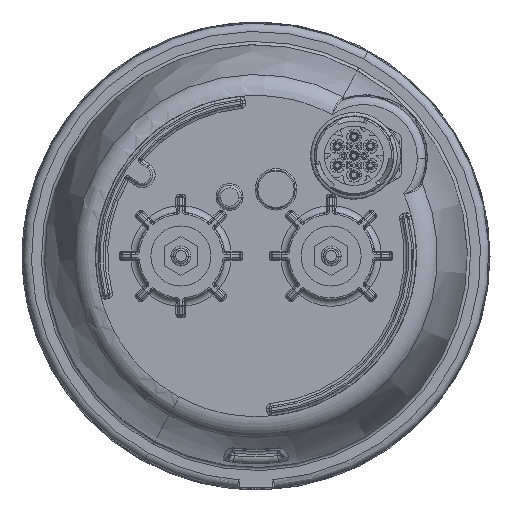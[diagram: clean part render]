
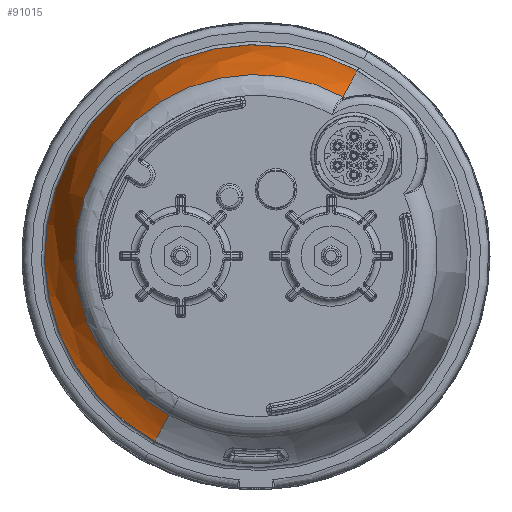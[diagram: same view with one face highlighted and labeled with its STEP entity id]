
A CAD part, left-side view. The second image highlights one B-rep face of the part: STEP entity #91015.
In plain terms, the highlighted face is a revolution surface.
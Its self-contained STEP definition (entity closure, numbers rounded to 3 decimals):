
#81153=AXIS2_PLACEMENT_3D('Circle Axis2P3D',#81151,#81152,$) ;
#90990=AXIS2_PLACEMENT_3D('Circle Axis2P3D',#90988,#90989,$) ;
#81148=CARTESIAN_POINT('Vertex',(40.931,30.343,-55.542)) ;
#81151=CARTESIAN_POINT('Axis2P3D Location',(40.931,0.,0.)) ;
#81155=CARTESIAN_POINT('Vertex',(40.931,-30.343,55.542)) ;
#90963=CARTESIAN_POINT('Vertex',(3.967,-26.074,47.727)) ;
#90979=CARTESIAN_POINT('Control Point',(40.931,0.,63.29)) ;
#90980=CARTESIAN_POINT('Control Point',(31.005,0.,62.943)) ;
#90981=CARTESIAN_POINT('Control Point',(21.524,0.,61.347)) ;
#90982=CARTESIAN_POINT('Control Point',(12.505,0.,58.491)) ;
#90983=CARTESIAN_POINT('Control Point',(3.967,0.,54.385)) ;
#90984=CARTESIAN_POINT('Axis1P Location',(22.5,0.,0.)) ;
#90988=CARTESIAN_POINT('Axis2P3D Location',(3.967,0.,0.)) ;
#90992=CARTESIAN_POINT('Vertex',(3.967,26.074,-47.727)) ;
#90996=CARTESIAN_POINT('Control Point',(40.931,-30.343,55.542)) ;
#90997=CARTESIAN_POINT('Control Point',(31.005,-30.176,55.238)) ;
#90998=CARTESIAN_POINT('Control Point',(21.524,-29.411,53.837)) ;
#90999=CARTESIAN_POINT('Control Point',(12.505,-28.042,51.33)) ;
#91000=CARTESIAN_POINT('Control Point',(3.967,-26.074,47.727)) ;
#91003=CARTESIAN_POINT('Control Point',(40.931,30.343,-55.542)) ;
#91004=CARTESIAN_POINT('Control Point',(31.005,30.176,-55.238)) ;
#91005=CARTESIAN_POINT('Control Point',(21.524,29.411,-53.837)) ;
#91006=CARTESIAN_POINT('Control Point',(12.505,28.042,-51.33)) ;
#91007=CARTESIAN_POINT('Control Point',(3.967,26.074,-47.727)) ;
#81152=DIRECTION('Axis2P3D Direction',(1.,0.,0.)) ;
#90985=DIRECTION('Axis1P Direction',(1.,0.,0.)) ;
#90989=DIRECTION('Axis2P3D Direction',(1.,0.,0.)) ;
#90986=AXIS1_PLACEMENT('Revolution Surface Axis1P',#90984,#90985) ;
#91010=ORIENTED_EDGE('',*,*,#90994,.T.) ;
#91011=ORIENTED_EDGE('',*,*,#91001,.F.) ;
#91012=ORIENTED_EDGE('',*,*,#81157,.F.) ;
#91013=ORIENTED_EDGE('',*,*,#91008,.T.) ;
#91015=ADVANCED_FACE('Body.22',(#91014),#90987,.F.) ;
#90978=B_SPLINE_CURVE_WITH_KNOTS('',4,(#90979,#90980,#90981,#90982,#90983),.UNSPECIFIED.,.F.,.U.,(5,5),(0.,37.547),.UNSPECIFIED.) ;
#90995=B_SPLINE_CURVE_WITH_KNOTS('',4,(#90996,#90997,#90998,#90999,#91000),.UNSPECIFIED.,.F.,.U.,(5,5),(0.,37.547),.UNSPECIFIED.) ;
#91002=B_SPLINE_CURVE_WITH_KNOTS('',4,(#91003,#91004,#91005,#91006,#91007),.UNSPECIFIED.,.F.,.U.,(5,5),(0.,37.547),.UNSPECIFIED.) ;
#81154=CIRCLE('generated circle',#81153,63.29) ;
#90991=CIRCLE('generated circle',#90990,54.385) ;
#81157=EDGE_CURVE('',#81149,#81156,#81154,.T.) ;
#90994=EDGE_CURVE('',#90993,#90964,#90991,.T.) ;
#91001=EDGE_CURVE('',#81156,#90964,#90995,.T.) ;
#91008=EDGE_CURVE('',#81149,#90993,#91002,.T.) ;
#91009=EDGE_LOOP('',(#91010,#91011,#91012,#91013)) ;
#91014=FACE_OUTER_BOUND('',#91009,.T.) ;
#90987=SURFACE_OF_REVOLUTION('Surface of Revolution',#90978,#90986) ;
#81149=VERTEX_POINT('',#81148) ;
#81156=VERTEX_POINT('',#81155) ;
#90964=VERTEX_POINT('',#90963) ;
#90993=VERTEX_POINT('',#90992) ;
